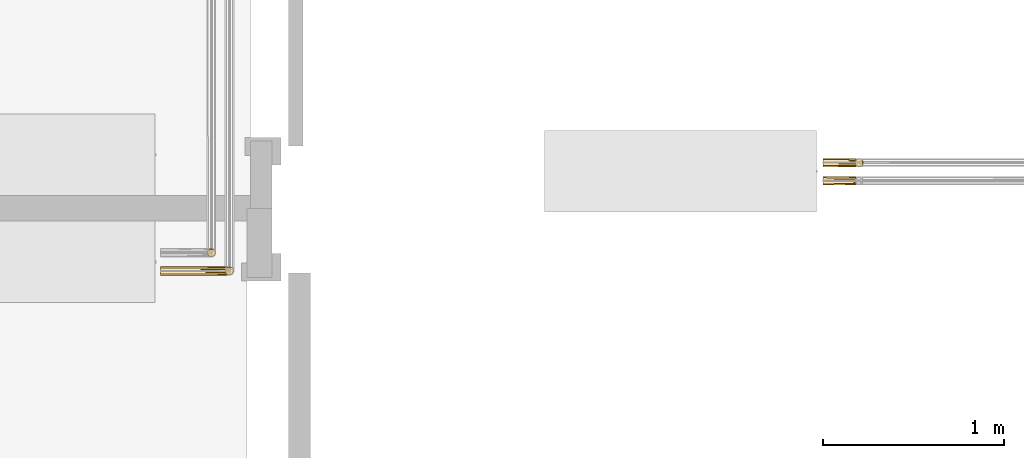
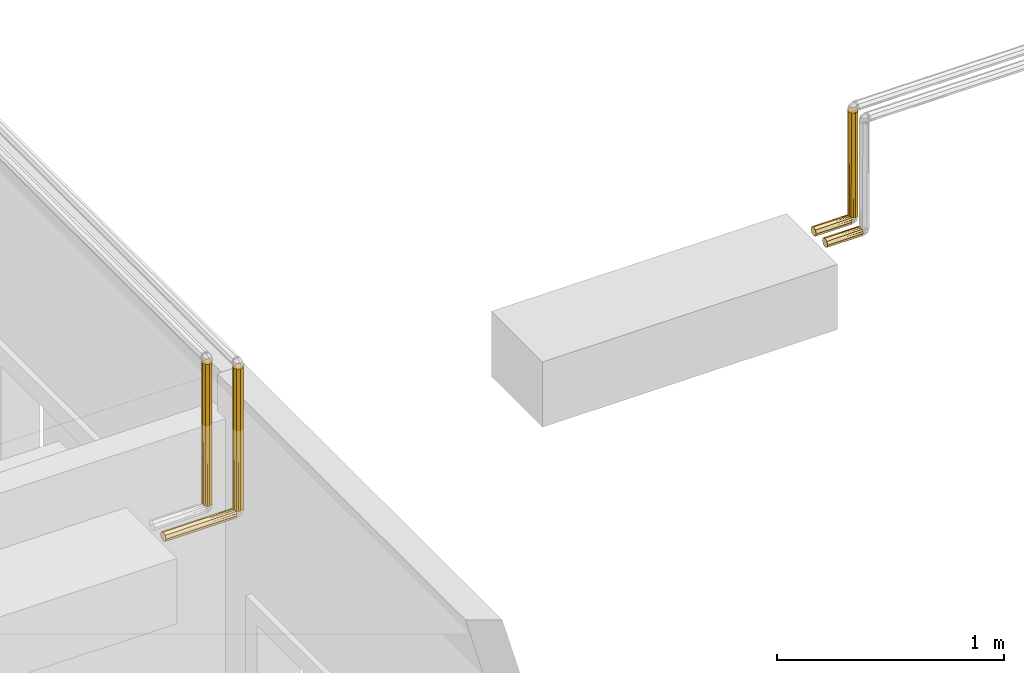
# One storey, part 163 of 652: 6 coverings.
"""IFC2X3 building model written with IfcOpenShell, lengths in millimetres."""

from ifc_helpers import new_model, entity, si_unit, converted_unit, direction, frame, origin, place, context, subcontext, project, spatial, faceted_brep, material, type_object, element, save


model = new_model("IFC2X3")

# Units and contexts
model_context = context("Model", 3, precision=0.01, world=frame((0.0, 0.0, 308426.39999999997)), true_north=direction((6.123233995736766e-17, 1.0)))
plan_context = context("Plan", 3, precision=0.01, world=frame((0.0, 0.0, 308426.39999999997)), true_north=direction((6.123233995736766e-17, 1.0)))
body_context = subcontext(model_context, "Body", "Model", "MODEL_VIEW")
ifc_project = project(units=[si_unit("LENGTHUNIT", "METRE", prefix="MILLI"), si_unit("AREAUNIT", "SQUARE_METRE"), si_unit("VOLUMEUNIT", "CUBIC_METRE"), converted_unit("PLANEANGLEUNIT", "DEGREE", entity("IfcPlaneAngleMeasure", 0.017453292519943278), si_unit("PLANEANGLEUNIT", "RADIAN"), dimensions=[0, 0, 0, 0, 0, 0, 0])], contexts=[model_context, plan_context])

# Site, building, storey
site_placement = place(None, origin())
site = spatial("IfcSite", under=ifc_project, at=site_placement, Name="Default", CompositionType="ELEMENT")
building_placement = place(site_placement, origin())
building = spatial("IfcBuilding", under=site, at=building_placement, CompositionType="ELEMENT")
storey_placement = place(building_placement, frame((0.0, 0.0, 1730.6999999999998)))
storey = spatial("IfcBuildingStorey", under=building, at=storey_placement, Name="EG_Produktion_FFB", CompositionType="ELEMENT", Elevation=1730.6999999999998)

# Coverings
ifc_material = material(Name="Dämmung - Armaflex-Schlauch")
covering_type = type_object("IfcCoveringType", Name="Rohrdämmung außen:Armaflex-Schlauch", PredefinedType="INSULATION")
covering_1_placement = place(storey_placement, frame((37460.0, 54369.642227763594, 2674.642227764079)))
element("IfcCovering", 1, at=covering_1_placement, inside=storey, type_object=covering_type, material=ifc_material, Name="Rohrdämmung außen:Armaflex-Schlauch", ObjectType="Rohrdämmung außen:Armaflex-Schlauch", PredefinedType="INSULATION", context=body_context, shape_type="Brep", body=[
    faceted_brep([(362.0497499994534, 1.5952722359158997, 25.35777223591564), (362.0497499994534, 3.335241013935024, 21.157116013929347), (362.0497499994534, 5.075209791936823, 16.956459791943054), (362.0497499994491, 6.815178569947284, 12.755803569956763), (362.0497499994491, 8.55514734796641, 8.55514734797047), (362.0497499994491, 12.755803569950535, 6.8151785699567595), (362.0497499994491, 16.956459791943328, 5.075209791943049), (362.0497499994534, 21.157116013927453, 3.3352410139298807), (362.0497499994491, 25.35777223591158, 1.595272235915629), (362.0497499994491, 28.868603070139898, 3.0495059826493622), (362.0497499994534, 33.759084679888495, 5.075209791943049), (362.0497499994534, 37.95974090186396, 6.8151785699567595), (362.0497499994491, 42.160397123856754, 8.55514734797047), (362.0497499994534, 43.90036590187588, 12.755803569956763), (362.0497499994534, 45.64033467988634, 16.956459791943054), (362.0497499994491, 47.3803034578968, 21.157116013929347), (362.0497499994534, 49.12027223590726, 25.35777223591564), (362.0497499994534, 48.047093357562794, 30.292313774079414), (362.0497499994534, 46.97391447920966, 35.22685531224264), (362.0497499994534, 43.95116498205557, 39.26743877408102), (362.04974999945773, 40.928415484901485, 43.308022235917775), (362.04974999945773, 9.787128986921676, 43.30802223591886), (362.0497499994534, 6.764379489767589, 39.26743877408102), (362.0497499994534, 3.7416299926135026, 35.22685531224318), (362.0497499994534, 2.6684511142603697, 30.292313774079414), (0.0, 37.95974090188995, 6.815178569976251), (0.0, 33.759084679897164, 5.075209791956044), (0.0, 29.558428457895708, 3.335241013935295), (0.0, 25.35777223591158, 1.5952722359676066), (0.0, 18.336110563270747, 4.503739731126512), (0.0, 13.445628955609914, 6.529443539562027), (0.0, 8.55514734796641, 8.555147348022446), (0.0, 6.815178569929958, 12.755803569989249), (0.0, 5.07520979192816, 16.956459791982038), (0.0, 3.3352410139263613, 21.15711601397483), (0.0, 1.5952722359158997, 25.35777223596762), (0.0, 3.049505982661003, 28.868603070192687), (0.0, 5.075209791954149, 33.75908467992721), (0.0, 6.8151785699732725, 37.959740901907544), (0.0, 8.55514734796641, 42.160397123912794), (0.0, 12.755803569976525, 43.90036590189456), (0.0, 16.95645979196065, 45.64033467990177), (0.0, 21.157116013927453, 47.38030345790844), (0.0, 25.35777223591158, 49.12027223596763), (0.0, 29.558428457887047, 47.38030345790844), (0.0, 33.759084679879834, 45.64033467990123), (0.0, 37.9597409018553, 43.90036590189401), (0.0, 42.160397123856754, 42.160397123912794), (0.0, 43.90036590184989, 37.959740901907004), (0.0, 45.640334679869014, 33.75908467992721), (0.0, 47.38030345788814, 29.558428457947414), (0.0, 49.12027223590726, 25.35777223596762), (0.0, 46.21180474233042, 18.336110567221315), (0.0, 44.18610093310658, 13.445628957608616), (0.0, 42.160397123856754, 8.555147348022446), (359.89384168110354, 37.2981147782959, 45.463930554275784), (357.73793336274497, 33.66781407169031, 47.619838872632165), (356.9877166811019, 29.51279315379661, 48.37005555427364), (356.2374999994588, 25.35777223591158, 49.12027223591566), (356.9877166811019, 21.20275131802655, 48.37005555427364), (359.8938416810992, 13.417429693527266, 45.463930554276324), (357.73793336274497, 17.047730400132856, 47.619838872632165)], [[[0, 1, 2, 3, 4, 5, 6, 7, 8, 9, 10, 11, 12, 13, 14, 15, 16, 17, 18, 19, 20, 21, 22, 23, 24]], [[25, 26, 27, 28, 29, 30, 31, 32, 33, 34, 35, 36, 37, 38, 39, 40, 41, 42, 43, 44, 45, 46, 47, 48, 49, 50, 51, 52, 53, 54]], [[33, 32, 31, 4, 3, 2, 1, 0, 35, 34]], [[29, 28, 8, 7, 6, 5, 4, 31, 30]], [[26, 25, 54, 12, 11, 10, 9, 8, 28, 27]], [[12, 54, 53, 52, 51, 16, 15, 14, 13]], [[19, 48, 47]], [[16, 50, 17]], [[55, 20, 46]], [[49, 18, 17]], [[49, 48, 18]], [[51, 50, 16]], [[20, 47, 46]], [[56, 45, 44]], [[17, 50, 49]], [[55, 45, 56]], [[18, 48, 19]], [[57, 56, 44]], [[45, 55, 46]], [[47, 20, 19]], [[43, 57, 44]], [[58, 57, 43]], [[43, 59, 58]], [[38, 37, 23]], [[59, 43, 42]], [[21, 40, 39]], [[60, 41, 40]], [[39, 22, 21]], [[37, 24, 23]], [[60, 61, 41]], [[41, 61, 42]], [[36, 0, 24]], [[40, 21, 60]], [[38, 23, 22]], [[22, 39, 38]], [[42, 61, 59]], [[24, 37, 36]], [[36, 35, 0]], [[59, 61, 60, 21, 20, 55, 56, 57, 58]]]),
])
covering_2_placement = place(storey_placement, frame((37814.64222776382, 54369.642227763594, 2716.3549777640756)))
element("IfcCovering", 2, at=covering_2_placement, inside=storey, type_object=covering_type, material=ifc_material, Name="Rohrdämmung außen:Armaflex-Schlauch", ObjectType="Rohrdämmung außen:Armaflex-Schlauch", PredefinedType="INSULATION", context=body_context, shape_type="Brep", body=[
    faceted_brep([(25.3577722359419, 1.5952722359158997, 1.595272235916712), (20.423230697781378, 2.6684511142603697, 1.595272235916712), (15.488689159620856, 3.7416299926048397, 1.5952722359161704), (11.448105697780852, 6.764379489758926, 1.5952722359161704), (7.40752223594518, 9.787128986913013, 1.5952722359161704), (7.40752223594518, 40.92841548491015, 1.5952722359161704), (11.448105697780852, 43.95116498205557, 1.595272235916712), (15.488689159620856, 46.97391447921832, 1.5952722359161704), (20.423230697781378, 48.047093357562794, 1.595272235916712), (25.3577722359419, 49.12027223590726, 1.595272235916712), (29.558428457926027, 47.38030345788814, 1.595272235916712), (33.75908467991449, 45.64033467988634, 1.595272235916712), (37.95974090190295, 43.90036590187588, 1.5952722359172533), (42.16039712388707, 42.160397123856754, 1.5952722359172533), (43.900365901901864, 37.95974090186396, 1.5952722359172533), (45.640334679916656, 33.759084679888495, 1.5952722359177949), (47.74216646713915, 28.684813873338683, 1.5952722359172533), (49.12027223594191, 25.35777223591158, 1.5952722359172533), (47.74216646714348, 22.030730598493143, 1.5952722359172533), (45.64033467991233, 16.956459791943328, 1.5952722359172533), (43.900365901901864, 12.755803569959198, 1.5952722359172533), (42.16039712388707, 8.55514734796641, 1.5952722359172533), (37.95974090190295, 6.815178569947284, 1.5952722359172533), (33.75908467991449, 5.075209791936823, 1.595272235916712), (29.558428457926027, 3.335241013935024, 1.595272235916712), (3.33524101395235, 21.157116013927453, 765.6947722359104), (5.075209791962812, 16.956459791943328, 765.6947722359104), (6.8151785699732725, 12.755803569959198, 765.6947722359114), (8.55514734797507, 8.55514734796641, 765.6947722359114), (12.755803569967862, 6.81517856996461, 765.6947722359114), (16.95645979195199, 5.075209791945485, 765.6947722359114), (21.157116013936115, 3.3352410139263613, 765.6947722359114), (25.357772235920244, 1.5952722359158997, 765.6947722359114), (32.01185551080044, 4.351483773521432, 765.6947722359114), (37.08612631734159, 6.453315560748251, 765.6947722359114), (42.160397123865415, 8.55514734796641, 765.6947722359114), (43.9003659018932, 12.755803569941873, 765.6947722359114), (45.64033467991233, 16.956459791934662, 765.6947722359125), (47.38030345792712, 21.15711601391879, 765.6947722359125), (49.120272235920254, 25.35777223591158, 765.6947722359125), (48.04709335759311, 30.29231377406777, 765.6947722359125), (46.97391447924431, 35.22685531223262, 765.6947722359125), (43.951164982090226, 39.267438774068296, 765.6947722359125), (40.92841548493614, 43.30802223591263, 765.6947722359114), (9.787128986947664, 43.30802223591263, 765.6947722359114), (6.76437948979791, 39.26743877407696, 765.6947722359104), (3.7416299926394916, 35.22685531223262, 765.6947722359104), (2.66845111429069, 30.29231377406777, 765.6947722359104), (1.5952722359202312, 25.35777223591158, 765.6947722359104), (2.345488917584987, 29.512793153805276, 6.657305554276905), (1.5952722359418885, 25.35777223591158, 7.407522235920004), (3.095705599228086, 33.66781407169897, 5.907088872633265), (5.251613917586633, 37.29811477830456, 3.751180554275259), (13.417429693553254, 45.46393055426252, 763.538863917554), (17.047730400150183, 47.61983887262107, 761.3829555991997), (21.20275131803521, 48.3700555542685, 760.6327389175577), (25.357772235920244, 49.12027223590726, 759.8825222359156), (29.51279315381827, 48.3700555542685, 760.6327389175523), (33.66781407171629, 47.61983887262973, 761.3829555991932), (37.298114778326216, 45.46393055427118, 763.5388639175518), (2.345488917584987, 21.202751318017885, 6.657305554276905), (5.251613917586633, 13.417429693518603, 3.751180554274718), (3.095705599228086, 17.04773040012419, 5.907088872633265)], [[[0, 1, 2, 3, 4, 5, 6, 7, 8, 9, 10, 11, 12, 13, 14, 15, 16, 17, 18, 19, 20, 21, 22, 23, 24]], [[25, 26, 27, 28, 29, 30, 31, 32, 33, 34, 35, 36, 37, 38, 39, 40, 41, 42, 43, 44, 45, 46, 47, 48]], [[49, 50, 48]], [[47, 51, 49]], [[52, 45, 5]], [[6, 53, 7]], [[53, 54, 7]], [[53, 6, 44]], [[52, 51, 46]], [[55, 9, 8]], [[46, 51, 47]], [[55, 56, 9]], [[49, 48, 47]], [[45, 44, 5]], [[45, 52, 46]], [[6, 5, 44]], [[8, 54, 55]], [[7, 54, 8]], [[56, 57, 9]], [[40, 39, 16]], [[10, 57, 58]], [[41, 14, 42]], [[59, 11, 58]], [[13, 43, 42]], [[41, 40, 15]], [[15, 40, 16]], [[9, 57, 10]], [[42, 14, 13]], [[39, 17, 16]], [[41, 15, 14]], [[11, 59, 12]], [[43, 12, 59]], [[10, 58, 11]], [[12, 43, 13]], [[37, 36, 35, 21, 20, 19, 18, 17, 39, 38]], [[21, 35, 34, 33, 32, 0, 24, 23, 22]], [[3, 29, 28]], [[32, 31, 0]], [[30, 2, 1]], [[30, 29, 2]], [[48, 60, 25]], [[4, 27, 61]], [[62, 26, 25]], [[1, 31, 30]], [[26, 62, 61]], [[2, 29, 3]], [[60, 62, 25]], [[0, 31, 1]], [[28, 4, 3]], [[50, 60, 48]], [[27, 4, 28]], [[27, 26, 61]], [[49, 51, 52, 5, 4, 61, 62, 60, 50]], [[43, 59, 58, 57, 56, 55, 54, 53, 44]]]),
])
covering_3_placement = place(storey_placement, frame((37714.64222776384, 54469.642227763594, 2716.3549777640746)))
element("IfcCovering", 3, at=covering_3_placement, inside=storey, type_object=covering_type, material=ifc_material, Name="Rohrdämmung außen:Armaflex-Schlauch", ObjectType="Rohrdämmung außen:Armaflex-Schlauch", PredefinedType="INSULATION", context=body_context, shape_type="Brep", body=[
    faceted_brep([(25.357772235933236, 1.5952722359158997, 1.595272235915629), (20.423230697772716, 2.6684511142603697, 1.595272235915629), (15.488689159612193, 3.7416299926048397, 1.595272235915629), (11.448105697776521, 6.764379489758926, 1.595272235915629), (7.407522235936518, 9.787128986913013, 1.5952722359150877), (7.407522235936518, 40.92841548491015, 1.5952722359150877), (11.448105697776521, 43.951164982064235, 1.595272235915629), (15.488689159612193, 46.97391447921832, 1.595272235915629), (20.423230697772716, 48.047093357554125, 1.595272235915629), (25.357772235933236, 49.12027223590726, 1.595272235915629), (29.558428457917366, 47.3803034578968, 1.595272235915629), (33.759084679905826, 45.640334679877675, 1.595272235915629), (37.959740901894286, 43.90036590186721, 1.5952722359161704), (42.16039712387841, 42.160397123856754, 1.5952722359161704), (43.90036590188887, 37.95974090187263, 1.5952722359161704), (45.640334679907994, 33.759084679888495, 1.595272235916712), (47.74216646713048, 28.684813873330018, 1.5952722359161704), (49.12027223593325, 25.35777223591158, 1.5952722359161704), (47.742166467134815, 22.030730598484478, 1.595272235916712), (45.640334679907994, 16.956459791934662, 1.5952722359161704), (43.9003659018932, 12.755803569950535, 1.5952722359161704), (42.16039712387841, 8.55514734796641, 1.5952722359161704), (37.959740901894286, 6.815178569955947, 1.595272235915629), (33.759084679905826, 5.075209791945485, 1.595272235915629), (29.558428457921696, 3.335241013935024, 1.5952722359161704), (3.3352410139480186, 21.157116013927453, 765.6947722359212), (5.075209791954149, 16.956459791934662, 765.69477223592), (6.815178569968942, 12.755803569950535, 765.6947722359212), (8.55514734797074, 8.55514734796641, 765.6947722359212), (12.75580356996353, 6.815178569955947, 765.6947722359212), (16.95645979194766, 5.075209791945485, 765.69477223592), (21.157116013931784, 3.335241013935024, 765.6947722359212), (25.357772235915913, 1.5952722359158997, 765.6947722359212), (32.01185551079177, 4.351483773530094, 765.6947722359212), (37.086126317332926, 6.453315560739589, 765.6947722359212), (42.16039712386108, 8.55514734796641, 765.6947722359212), (43.90036590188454, 12.755803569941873, 765.6947722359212), (45.64033467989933, 16.956459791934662, 765.6947722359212), (47.38030345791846, 21.157116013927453, 765.6947722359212), (49.12027223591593, 25.35777223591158, 765.6947722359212), (48.04709335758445, 30.292313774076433, 765.6947722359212), (46.97391447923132, 35.22685531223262, 765.6947722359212), (43.95116498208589, 39.26743877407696, 765.6947722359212), (40.928415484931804, 43.30802223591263, 765.6947722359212), (9.78712898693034, 43.30802223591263, 765.6947722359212), (6.764379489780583, 39.26743877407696, 765.6947722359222), (3.741629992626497, 35.22685531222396, 765.6947722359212), (2.668451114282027, 30.292313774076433, 765.6947722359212), (1.5952722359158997, 25.35777223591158, 765.6947722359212), (2.3454889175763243, 29.512793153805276, 6.657305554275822), (1.5952722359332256, 25.35777223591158, 7.407522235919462), (3.0957055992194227, 33.66781407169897, 5.907088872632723), (5.25161391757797, 37.29811477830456, 3.7511805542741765), (13.417429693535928, 45.46393055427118, 763.5388639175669), (17.047730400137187, 47.61983887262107, 761.3829555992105), (21.20275131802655, 48.37005555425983, 760.6327389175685), (25.357772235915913, 49.12027223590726, 759.8825222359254), (29.512793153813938, 48.3700555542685, 760.6327389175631), (33.667814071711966, 47.61983887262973, 761.3829555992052), (37.29811477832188, 45.46393055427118, 763.5388639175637), (2.3454889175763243, 21.202751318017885, 6.657305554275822), (5.25161391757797, 13.417429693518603, 3.7511805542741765), (3.0957055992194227, 17.04773040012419, 5.907088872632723)], [[[0, 1, 2, 3, 4, 5, 6, 7, 8, 9, 10, 11, 12, 13, 14, 15, 16, 17, 18, 19, 20, 21, 22, 23, 24]], [[25, 26, 27, 28, 29, 30, 31, 32, 33, 34, 35, 36, 37, 38, 39, 40, 41, 42, 43, 44, 45, 46, 47, 48]], [[49, 50, 48]], [[47, 51, 49]], [[52, 45, 5]], [[6, 53, 7]], [[53, 54, 7]], [[53, 6, 44]], [[52, 51, 46]], [[55, 9, 8]], [[46, 51, 47]], [[55, 56, 9]], [[49, 48, 47]], [[45, 44, 5]], [[45, 52, 46]], [[6, 5, 44]], [[8, 54, 55]], [[7, 54, 8]], [[56, 57, 9]], [[40, 39, 16]], [[10, 57, 58]], [[41, 14, 42]], [[59, 11, 58]], [[13, 43, 42]], [[41, 40, 15]], [[15, 40, 16]], [[9, 57, 10]], [[42, 14, 13]], [[39, 17, 16]], [[41, 15, 14]], [[11, 59, 12]], [[43, 12, 59]], [[10, 58, 11]], [[12, 43, 13]], [[37, 36, 35, 21, 20, 19, 18, 17, 39, 38]], [[21, 35, 34, 33, 32, 0, 24, 23, 22]], [[3, 29, 28]], [[32, 31, 0]], [[30, 2, 1]], [[30, 29, 2]], [[48, 60, 25]], [[4, 27, 61]], [[62, 26, 25]], [[1, 31, 30]], [[26, 62, 61]], [[2, 29, 3]], [[60, 62, 25]], [[0, 31, 1]], [[28, 4, 3]], [[50, 60, 48]], [[27, 4, 28]], [[27, 26, 61]], [[49, 51, 52, 5, 4, 61, 62, 60, 50]], [[43, 59, 58, 57, 56, 55, 54, 53, 44]]]),
])
covering_4_placement = place(storey_placement, frame((41109.36218313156, 54866.678785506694, 2725.3577722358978)))
element("IfcCovering", 4, at=covering_4_placement, inside=storey, type_object=covering_type, material=ifc_material, Name="Rohrdämmung außen:Armaflex-Schlauch", ObjectType="Rohrdämmung außen:Armaflex-Schlauch", PredefinedType="INSULATION", context=body_context, shape_type="Brep", body=[
    faceted_brep([(182.04975000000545, 1.5952722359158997, -25.357772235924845), (182.04975000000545, 3.3352410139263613, -29.558428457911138), (182.04975000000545, 5.075209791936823, -33.759084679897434), (182.0497499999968, 6.815178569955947, -37.95974090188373), (182.04975000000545, 8.55514734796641, -42.16039712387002), (182.04975000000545, 12.755803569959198, -43.90036590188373), (182.04975000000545, 16.956459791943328, -45.640334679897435), (182.04975000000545, 21.157116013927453, -47.38030345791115), (182.04975000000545, 25.35777223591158, -49.12027223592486), (182.04975000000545, 28.84883834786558, -47.67422530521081), (182.04975000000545, 33.759084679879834, -45.640334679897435), (182.04975000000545, 37.95974090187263, -43.900365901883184), (182.04975000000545, 42.160397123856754, -42.16039712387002), (182.04975000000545, 43.90036590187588, -37.95974090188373), (182.04975000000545, 45.64033467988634, -33.759084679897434), (182.04975000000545, 47.3803034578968, -29.558428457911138), (182.04975000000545, 49.12027223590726, -25.357772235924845), (182.04975000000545, 48.047093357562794, -20.423230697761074), (182.04975000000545, 46.97391447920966, -15.488689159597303), (182.04975000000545, 43.95116498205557, -11.448105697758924), (182.04975000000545, 40.928415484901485, -7.4075222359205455), (182.04975000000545, 9.787128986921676, -7.4075222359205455), (182.04975000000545, 6.764379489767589, -11.448105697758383), (182.04975000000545, 3.7416299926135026, -15.488689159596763), (182.04975000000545, 2.6684511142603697, -20.423230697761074), (0.0, 37.95974090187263, -43.90036590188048), (0.0, 33.759084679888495, -45.640334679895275), (0.0, 29.55842845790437, -47.38030345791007), (0.0, 25.35777223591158, -49.12027223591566), (0.0, 18.375640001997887, -46.22817837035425), (0.0, 13.465393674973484, -44.1942877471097), (0.0, 8.55514734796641, -42.16039712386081), (0.0, 6.815178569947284, -37.959740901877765), (0.0, 5.075209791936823, -33.75908467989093), (0.0, 3.3352410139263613, -29.558428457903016), (0.0, 1.5952722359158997, -25.35777223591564), (0.0, 3.0413191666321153, -21.866706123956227), (0.0, 5.075209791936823, -16.95645979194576), (0.0, 6.81517856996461, -12.75580356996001), (0.0, 8.55514734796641, -8.55514734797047), (0.0, 12.755803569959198, -6.815178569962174), (0.0, 16.956459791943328, -5.075209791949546), (0.0, 21.157116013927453, -3.3352410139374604), (0.0, 25.35777223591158, -1.595272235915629), (0.0, 29.558428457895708, -3.3352410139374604), (0.0, 33.759084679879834, -5.075209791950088), (0.0, 37.95974090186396, -6.815178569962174), (0.0, 42.160397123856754, -8.55514734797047), (0.0, 43.90036590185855, -12.75580356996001), (0.0, 45.64033467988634, -16.95645979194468), (0.0, 47.38030345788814, -21.15711601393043), (0.0, 49.12027223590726, -25.35777223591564), (0.0, 46.22817837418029, -32.33990446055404), (0.0, 44.194287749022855, -37.25015079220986), (0.0, 42.160397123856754, -42.16039712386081), (179.8938416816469, 37.2981147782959, -5.251613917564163), (177.73793336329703, 33.66781407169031, -3.0957055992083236), (176.98771668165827, 29.51279315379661, -2.345488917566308), (176.23750000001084, 25.35777223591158, -1.5952722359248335), (176.98771668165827, 21.20275131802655, -2.345488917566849), (179.8938416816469, 13.417429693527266, -5.251613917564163), (177.73793336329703, 17.047730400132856, -3.0957055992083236)], [[[0, 1, 2, 3, 4, 5, 6, 7, 8, 9, 10, 11, 12, 13, 14, 15, 16, 17, 18, 19, 20, 21, 22, 23, 24]], [[25, 26, 27, 28, 29, 30, 31, 32, 33, 34, 35, 36, 37, 38, 39, 40, 41, 42, 43, 44, 45, 46, 47, 48, 49, 50, 51, 52, 53, 54]], [[33, 32, 31, 4, 3, 2, 1, 0, 35, 34]], [[29, 28, 8, 7, 6, 5, 4, 31, 30]], [[26, 25, 54, 12, 11, 10, 9, 8, 28, 27]], [[12, 54, 53, 52, 51, 16, 15, 14, 13]], [[19, 48, 47]], [[16, 50, 17]], [[55, 20, 46]], [[49, 18, 17]], [[49, 48, 18]], [[51, 50, 16]], [[20, 47, 46]], [[56, 45, 44]], [[17, 50, 49]], [[55, 45, 56]], [[18, 48, 19]], [[57, 56, 44]], [[45, 55, 46]], [[47, 20, 19]], [[43, 57, 44]], [[58, 57, 43]], [[43, 59, 58]], [[38, 37, 23]], [[59, 43, 42]], [[21, 40, 39]], [[60, 41, 40]], [[39, 22, 21]], [[37, 24, 23]], [[60, 61, 41]], [[41, 61, 42]], [[36, 0, 24]], [[40, 21, 60]], [[38, 23, 22]], [[22, 39, 38]], [[42, 61, 59]], [[24, 37, 36]], [[36, 35, 0]], [[59, 61, 60, 21, 20, 55, 56, 57, 58]]]),
])
covering_5_placement = place(storey_placement, frame((41109.36218313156, 54966.6787855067, 2725.357772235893)))
element("IfcCovering", 5, at=covering_5_placement, inside=storey, type_object=covering_type, material=ifc_material, Name="Rohrdämmung außen:Armaflex-Schlauch", ObjectType="Rohrdämmung außen:Armaflex-Schlauch", PredefinedType="INSULATION", context=body_context, shape_type="Brep", body=[
    faceted_brep([(182.04975000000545, 1.5952722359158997, -25.357772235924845), (182.04975000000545, 3.3352410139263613, -29.558428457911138), (182.04975000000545, 5.075209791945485, -33.759084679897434), (182.04975000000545, 6.815178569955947, -37.95974090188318), (182.04975000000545, 8.55514734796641, -42.16039712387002), (182.04975000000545, 12.755803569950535, -43.90036590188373), (182.04975000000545, 16.956459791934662, -45.640334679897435), (182.04975000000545, 21.15711601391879, -47.38030345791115), (182.04975000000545, 25.35777223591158, -49.12027223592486), (182.04975000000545, 28.84883834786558, -47.67422530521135), (182.04975000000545, 33.759084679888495, -45.640334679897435), (182.04975000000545, 37.95974090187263, -43.900365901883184), (182.04975000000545, 42.160397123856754, -42.16039712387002), (182.04975000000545, 43.90036590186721, -37.95974090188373), (182.04975000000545, 45.64033467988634, -33.759084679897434), (182.04975000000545, 47.38030345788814, -29.558428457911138), (182.04975000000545, 49.12027223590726, -25.357772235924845), (182.04975000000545, 48.047093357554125, -20.423230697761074), (182.04975000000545, 46.97391447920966, -15.488689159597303), (182.04975000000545, 43.95116498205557, -11.448105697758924), (182.04975000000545, 40.928415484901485, -7.4075222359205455), (182.04975000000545, 9.787128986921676, -7.4075222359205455), (182.04975000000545, 6.764379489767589, -11.448105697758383), (182.04975000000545, 3.7416299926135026, -15.488689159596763), (182.04975000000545, 2.6684511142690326, -20.423230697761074), (0.0, 37.95974090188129, -43.90036590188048), (0.0, 33.759084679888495, -45.640334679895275), (0.0, 29.55842845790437, -47.38030345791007), (0.0, 25.35777223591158, -49.1202722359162), (0.0, 18.375640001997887, -46.22817837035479), (0.0, 13.465393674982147, -44.1942877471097), (0.0, 8.55514734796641, -42.16039712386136), (0.0, 6.815178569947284, -37.95974090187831), (0.0, 5.075209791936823, -33.75908467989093), (0.0, 3.3352410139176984, -29.55842845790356), (0.0, 1.5952722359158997, -25.357772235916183), (0.0, 3.0413191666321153, -21.866706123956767), (0.0, 5.075209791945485, -16.95645979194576), (0.0, 6.815178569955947, -12.755803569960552), (0.0, 8.55514734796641, -8.55514734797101), (0.0, 12.755803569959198, -6.815178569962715), (0.0, 16.956459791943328, -5.075209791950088), (0.0, 21.15711601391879, -3.3352410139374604), (0.0, 25.35777223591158, -1.5952722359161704), (0.0, 29.558428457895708, -3.3352410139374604), (0.0, 33.759084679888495, -5.075209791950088), (0.0, 37.95974090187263, -6.815178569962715), (0.0, 42.160397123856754, -8.55514734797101), (0.0, 43.90036590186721, -12.755803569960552), (0.0, 45.640334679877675, -16.95645979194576), (0.0, 47.38030345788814, -21.157116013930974), (0.0, 49.12027223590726, -25.357772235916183), (0.0, 46.22817837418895, -32.33990446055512), (0.0, 44.194287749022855, -37.25015079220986), (0.0, 42.160397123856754, -42.16039712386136), (179.8938416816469, 37.2981147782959, -5.251613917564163), (177.73793336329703, 33.66781407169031, -3.0957055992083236), (176.98771668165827, 29.512793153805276, -2.345488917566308), (176.23750000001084, 25.35777223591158, -1.5952722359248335), (176.98771668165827, 21.202751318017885, -2.345488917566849), (179.8938416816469, 13.417429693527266, -5.251613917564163), (177.73793336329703, 17.047730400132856, -3.0957055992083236)], [[[0, 1, 2, 3, 4, 5, 6, 7, 8, 9, 10, 11, 12, 13, 14, 15, 16, 17, 18, 19, 20, 21, 22, 23, 24]], [[25, 26, 27, 28, 29, 30, 31, 32, 33, 34, 35, 36, 37, 38, 39, 40, 41, 42, 43, 44, 45, 46, 47, 48, 49, 50, 51, 52, 53, 54]], [[33, 32, 31, 4, 3, 2, 1, 0, 35, 34]], [[29, 28, 8, 7, 6, 5, 4, 31, 30]], [[26, 25, 54, 12, 11, 10, 9, 8, 28, 27]], [[12, 54, 53, 52, 51, 16, 15, 14, 13]], [[19, 48, 47]], [[16, 50, 17]], [[55, 20, 46]], [[49, 18, 17]], [[49, 48, 18]], [[51, 50, 16]], [[20, 47, 46]], [[56, 45, 44]], [[17, 50, 49]], [[55, 45, 56]], [[18, 48, 19]], [[57, 56, 44]], [[45, 55, 46]], [[47, 20, 19]], [[43, 57, 44]], [[58, 57, 43]], [[43, 59, 58]], [[38, 37, 23]], [[59, 43, 42]], [[21, 40, 39]], [[60, 41, 40]], [[39, 22, 21]], [[37, 24, 23]], [[60, 61, 41]], [[41, 61, 42]], [[36, 0, 24]], [[40, 21, 60]], [[38, 23, 22]], [[22, 39, 38]], [[42, 61, 59]], [[24, 37, 36]], [[36, 35, 0]], [[59, 61, 60, 21, 20, 55, 56, 57, 58]]]),
])
covering_6_placement = place(storey_placement, frame((41284.00441089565, 54966.6787855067, 2716.3549777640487)))
element("IfcCovering", 6, at=covering_6_placement, inside=storey, type_object=covering_type, material=ifc_material, Name="Rohrdämmung außen:Armaflex-Schlauch", ObjectType="Rohrdämmung außen:Armaflex-Schlauch", PredefinedType="INSULATION", context=body_context, shape_type="Brep", body=[
    faceted_brep([(7.407522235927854, 9.78712898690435, 1.5952722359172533), (7.407522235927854, 40.92841548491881, 1.5952722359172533), (11.448105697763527, 43.951164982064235, 1.595272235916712), (15.488689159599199, 46.97391447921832, 1.5952722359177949), (20.42323069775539, 48.047093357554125, 1.5952722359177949), (25.357772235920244, 49.12027223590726, 1.5952722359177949), (29.55842845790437, 47.38030345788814, 1.5952722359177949), (33.759084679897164, 45.640334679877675, 1.5952722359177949), (37.95974090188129, 43.90036590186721, 1.5952722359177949), (42.160397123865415, 42.160397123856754, 1.5952722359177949), (43.90036590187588, 37.95974090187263, 1.5952722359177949), (45.64033467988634, 33.759084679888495, 1.5952722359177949), (47.38030345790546, 29.55842845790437, 1.5952722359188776), (49.12027223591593, 25.35777223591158, 1.5952722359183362), (47.3803034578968, 21.15711601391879, 1.5952722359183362), (45.64033467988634, 16.956459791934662, 1.5952722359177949), (43.90036590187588, 12.755803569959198, 1.5952722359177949), (42.160397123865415, 8.55514734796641, 1.5952722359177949), (37.95974090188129, 6.815178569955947, 1.5952722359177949), (33.759084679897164, 5.075209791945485, 1.5952722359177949), (29.86440777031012, 3.461981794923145, 1.5952722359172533), (25.357772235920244, 1.5952722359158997, 1.5952722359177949), (20.42323069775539, 2.6684511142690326, 1.5952722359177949), (15.488689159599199, 3.7416299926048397, 1.5952722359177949), (11.448105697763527, 6.764379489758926, 1.5952722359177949), (12.755803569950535, 6.815178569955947, 565.6947722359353), (16.956459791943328, 5.075209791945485, 565.6947722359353), (21.157116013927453, 3.3352410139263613, 565.6947722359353), (25.35777223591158, 1.5952722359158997, 565.6947722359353), (30.29231377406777, 2.6684511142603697, 565.6947722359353), (35.22685531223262, 3.741629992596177, 565.6947722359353), (39.267438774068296, 6.764379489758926, 565.6947722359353), (43.30802223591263, 9.78712898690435, 565.6947722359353), (43.30802223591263, 40.92841548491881, 565.6947722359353), (39.267438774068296, 43.951164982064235, 565.6947722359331), (35.22685531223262, 46.973914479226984, 565.6947722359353), (30.29231377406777, 48.047093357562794, 565.6947722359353), (25.35777223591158, 49.12027223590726, 565.6947722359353), (20.85113670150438, 47.25356267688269, 565.6947722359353), (16.956459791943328, 45.640334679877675, 565.6947722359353), (12.755803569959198, 43.90036590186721, 565.6947722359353), (8.55514734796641, 42.160397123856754, 565.6947722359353), (6.815178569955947, 37.95974090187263, 565.6947722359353), (5.075209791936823, 33.759084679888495, 565.6947722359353), (3.335241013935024, 29.558428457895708, 565.6947722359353), (1.5952722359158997, 25.35777223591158, 565.6947722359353), (3.335241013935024, 21.157116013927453, 565.6947722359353), (5.075209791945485, 16.956459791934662, 565.6947722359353), (6.815178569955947, 12.755803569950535, 565.6947722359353), (8.55514734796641, 8.55514734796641, 565.6947722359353), (47.61983887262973, 33.66781407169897, 561.3829555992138), (45.46393055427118, 37.29811477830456, 563.5388639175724), (48.3700555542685, 29.512793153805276, 560.6327389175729), (49.12027223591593, 25.35777223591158, 559.8825222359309), (48.3700555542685, 21.202751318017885, 560.6327389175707), (47.61983887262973, 17.04773040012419, 561.3829555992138), (45.46393055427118, 13.417429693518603, 563.5388639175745), (2.3454889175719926, 21.202751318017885, 6.657305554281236), (5.2516139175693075, 13.417429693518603, 3.7511805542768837), (3.09570559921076, 17.04773040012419, 5.907088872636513), (1.5952722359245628, 25.35777223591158, 7.407522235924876), (2.3454889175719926, 29.512793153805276, 6.657305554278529), (3.09570559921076, 33.66781407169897, 5.907088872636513), (5.2516139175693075, 37.29811477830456, 3.7511805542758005)], [[[0, 1, 2, 3, 4, 5, 6, 7, 8, 9, 10, 11, 12, 13, 14, 15, 16, 17, 18, 19, 20, 21, 22, 23, 24]], [[25, 26, 27, 28, 29, 30, 31, 32, 33, 34, 35, 36, 37, 38, 39, 40, 41, 42, 43, 44, 45, 46, 47, 48, 49]], [[37, 6, 5]], [[11, 50, 12]], [[6, 37, 36]], [[36, 7, 6]], [[33, 9, 34]], [[10, 33, 51]], [[51, 50, 11]], [[52, 53, 13]], [[35, 34, 8]], [[34, 9, 8]], [[35, 8, 7]], [[12, 50, 52]], [[9, 33, 10]], [[36, 35, 7]], [[51, 11, 10]], [[52, 13, 12]], [[53, 54, 13]], [[29, 28, 20]], [[14, 54, 55]], [[30, 18, 31]], [[56, 15, 55]], [[17, 32, 31]], [[30, 29, 19]], [[19, 29, 20]], [[13, 54, 14]], [[31, 18, 17]], [[28, 21, 20]], [[30, 19, 18]], [[15, 56, 16]], [[32, 16, 56]], [[14, 55, 15]], [[16, 32, 17]], [[24, 25, 49]], [[28, 27, 21]], [[26, 23, 22]], [[26, 25, 23]], [[45, 57, 46]], [[0, 48, 58]], [[59, 47, 46]], [[22, 27, 26]], [[47, 59, 58]], [[23, 25, 24]], [[57, 59, 46]], [[21, 27, 22]], [[49, 0, 24]], [[60, 57, 45]], [[48, 0, 49]], [[48, 47, 58]], [[45, 61, 60]], [[4, 39, 38]], [[61, 45, 44]], [[62, 43, 63]], [[2, 41, 40]], [[41, 2, 1]], [[39, 4, 3]], [[1, 42, 41]], [[43, 62, 44]], [[38, 5, 4]], [[1, 63, 42]], [[40, 3, 2]], [[40, 39, 3]], [[44, 62, 61]], [[38, 37, 5]], [[63, 43, 42]], [[61, 62, 63, 1, 0, 58, 59, 57, 60]], [[32, 56, 55, 54, 53, 52, 50, 51, 33]]]),
])

save(model, "model.ifc")
